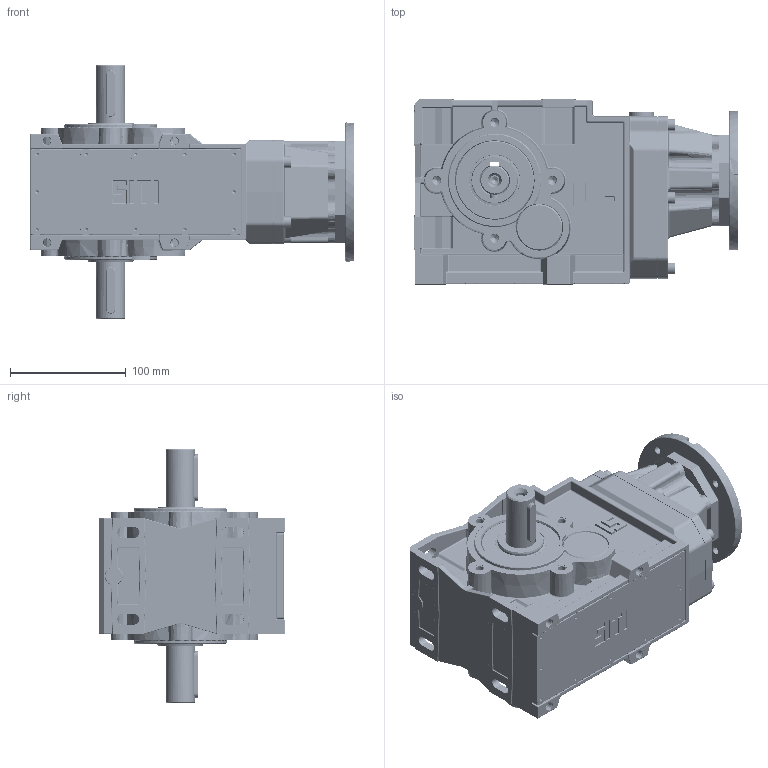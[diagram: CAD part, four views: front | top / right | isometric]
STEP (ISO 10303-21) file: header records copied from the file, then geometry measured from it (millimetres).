
FILE_DESCRIPTION((''),'2;1');
FILE_NAME('C:\Users\m.piscopiello.SITIRIDUTTORI\Desktop\3D x SITO\MBH 56 PAM 56\MBH_56 MD PAM56 B5.stp','2013-04-23T14:44:16',('m.piscopiello'),(''),'Autodesk Inventor 2012','Autodesk Inventor 2012','');
FILE_SCHEMA(('CONFIG_CONTROL_DESIGN'));
Length unit declared in the file: millimetre
Products named in the file (1): MBH_56 MD PAM56 B5
Bounding box: 280.5 x 160 x 220 mm (x, y, z)
Volume: 1442156.5 mm3; surface area: 454776.6 mm2
Topology: 54 solids, 62 shells, 4617 faces, 11036 edges, 6412 vertices
Faces by surface type: cylinder 1491, plane 1213, bspline 840, torus 514, cone 360, sphere 199
Full cylindrical faces by diameter (mm): 3 x4, 3.242 x12, 4.917 x6, 6 x16, 6.5 x10, 6.647 x14, 7 x24, 8.4 x2, 8.5 x1, 8.7 x11, 9.9 x1, 10 x25, 11 x7, 12.5 x1, 15.01 x1, 18.2 x1, 19 x1, 19.37 x1, 19.97 x2, 23.5 x1, 25 x1, 30 x1, 33 x1, 34.4 x1, 35 x3, 36.875 x2, 39.4 x1, 40 x18, 42 x1, 42.25 x1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
Entity records: 152228 total; most frequent: CARTESIAN_POINT 48664, DIRECTION 20709, ORIENTED_EDGE 19922, EDGE_CURVE 9962, AXIS2_PLACEMENT_3D 8519, VERTEX_POINT 6123, EDGE_LOOP 5403, FACE_OUTER_BOUND 4617
